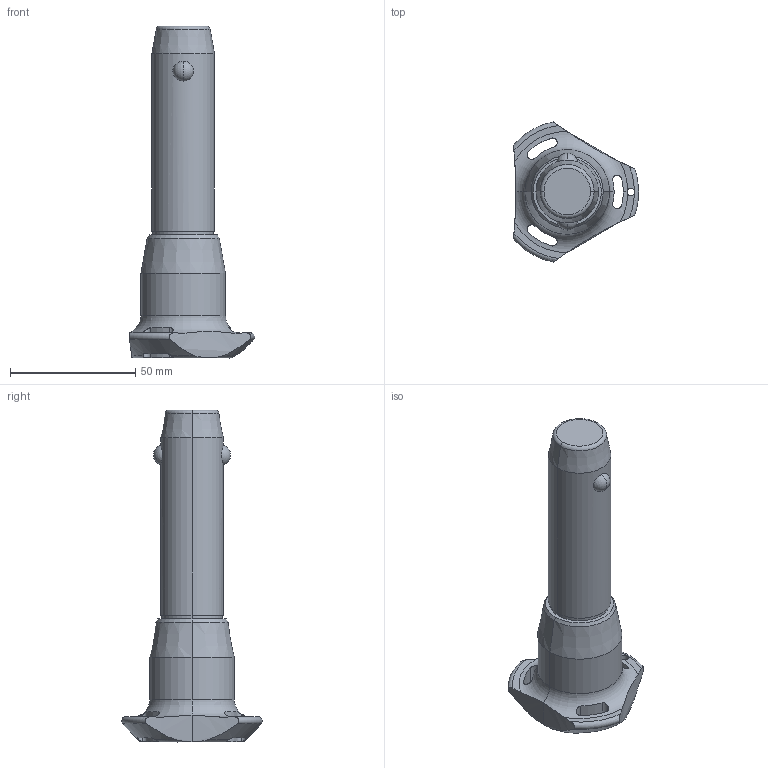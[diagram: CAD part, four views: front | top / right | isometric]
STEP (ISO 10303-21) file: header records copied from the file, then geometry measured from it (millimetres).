
FILE_DESCRIPTION (( 'STEP AP203' ), '1' );
FILE_NAME ('QR1714.M25-060-S.step', '2025-11-12T10:31:30', ( '' ), ( '' ), 'SwSTEP 2.0', 'SolidWorks 2019', '' );
FILE_SCHEMA (( 'CONFIG_CONTROL_DESIGN' ));
Length unit declared in the file: millimetre
Products named in the file (1): QR1714.M25-060-S
Bounding box: 50.04 x 56.02 x 132.7 mm (x, y, z)
Volume: 87906 mm3; surface area: 16161.6 mm2
Topology: 1 solids, 1 shells, 65 faces, 176 edges, 111 vertices
Faces by surface type: cylinder 30, cone 14, torus 11, sphere 6, plane 4
Entity records: 2858 total; most frequent: CARTESIAN_POINT 1179, ORIENTED_EDGE 352, DIRECTION 329, EDGE_CURVE 176, AXIS2_PLACEMENT_3D 147, VERTEX_POINT 111, CIRCLE 81, EDGE_LOOP 71
